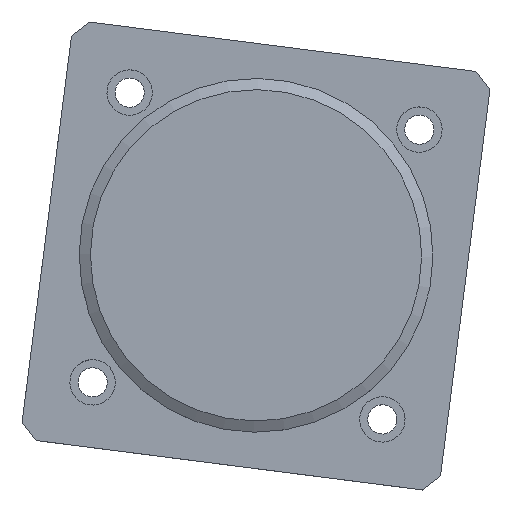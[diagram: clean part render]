
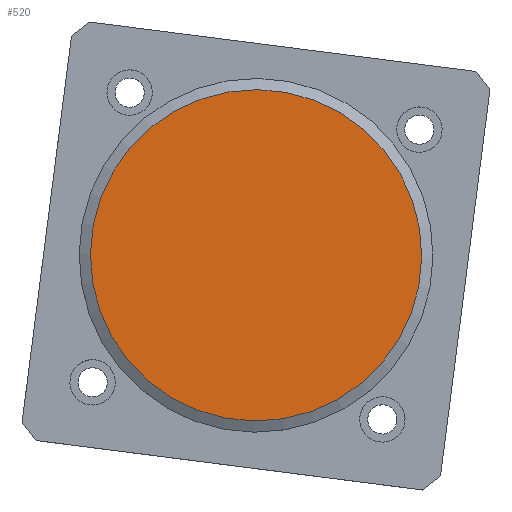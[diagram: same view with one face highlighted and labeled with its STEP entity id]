
A CAD part, top view. The second image highlights one B-rep face of the part: STEP entity #520.
In plain terms, the highlighted planar face has unit normal (0, 0, 1).
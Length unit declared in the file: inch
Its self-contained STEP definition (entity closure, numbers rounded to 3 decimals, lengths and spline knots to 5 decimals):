
#140=FACE_OUTER_BOUND('',#202,.T.);
#202=EDGE_LOOP('',(#430));
#235=CIRCLE('',#599,2.00929);
#279=VERTEX_POINT('',#876);
#331=EDGE_CURVE('',#279,#279,#235,.T.);
#430=ORIENTED_EDGE('',*,*,#331,.T.);
#454=PLANE('',#598);
#520=ADVANCED_FACE('',(#140),#454,.T.);
#598=AXIS2_PLACEMENT_3D('',#875,#739,#740);
#599=AXIS2_PLACEMENT_3D('',#877,#741,#742);
#739=DIRECTION('center_axis',(0.,0.,
1.));
#740=DIRECTION('ref_axis',(0.491,-0.871,0.));
#741=DIRECTION('center_axis',(0.,0.,
1.));
#742=DIRECTION('ref_axis',(0.491,-0.871,0.));
#875=CARTESIAN_POINT('Origin',(10.93762,36.50695,8.18594));
#876=CARTESIAN_POINT('',(11.92467,34.75681,8.1856));
#877=CARTESIAN_POINT('Origin',(10.93762,36.50695,8.18594));
